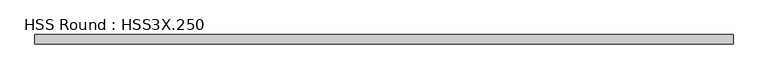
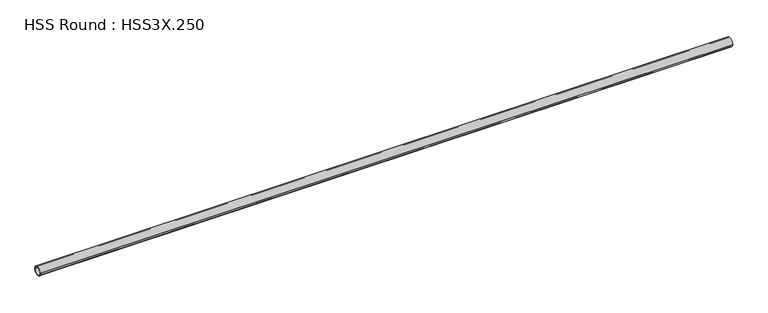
"""IFC4 building model written with IfcOpenShell, lengths in millimetres: member geometry, HSS Round : HSS3X.250."""

from ifc_helpers import new_model, si_unit, point, frame, origin, origin_2d, place, context, project, spatial, circle_curve, trimmed, segment, composite_curve, outline, extrude, source, transform, mapped, element, save


def hss_round_hss3x_250_f164ea78(model_context):
    return source(origin(), model_context, "Body", "SweptSolid", [
        extrude(outline(composite_curve([segment(trimmed(circle_curve(origin_2d(), 38.1), [point((-38.1, 0.0))], [point((38.1, 0.0))], False, "CARTESIAN"), True, "CONTINUOUS"), segment(trimmed(circle_curve(origin_2d(), 38.1), [point((38.1, 0.0))], [point((-38.1, 0.0))], False, "CARTESIAN"), True, "CONTINUOUS")], self_intersect=False), holes=[composite_curve([segment(trimmed(circle_curve(origin_2d(), 31.75), [point((31.75, 0.0))], [point((-31.75, 0.0))], True, "CARTESIAN"), True, "CONTINUOUS"), segment(trimmed(circle_curve(origin_2d(), 31.75), [point((-31.75, 0.0))], [point((31.75, 0.0))], True, "CARTESIAN"), True, "CONTINUOUS")], self_intersect=False)]), frame((-2872.2959474, 0.0, 0.0), z_axis=(1.0, 0.0, 0.0), x_axis=(0.0, 1.0, 0.0)), (0.0, 0.0, 1.0), 5744.5918948),
    ])


if __name__ == "__main__":
    model = new_model("IFC4")
    model_context = context("Model", 3, world=origin())
    ifc_project = project(units=[si_unit("LENGTHUNIT", "METRE", prefix="MILLI")], contexts=[model_context])
    site = spatial("IfcSite", under=ifc_project)
    building = spatial("IfcBuilding", under=site)
    placement = place(None, origin())
    hss_round_hss3x_250_shape = hss_round_hss3x_250_f164ea78(model_context)
    element("IfcMember", 1, ObjectType="HSS Round : HSS3X.250", at=placement, inside=building, context=model_context, shape_type="MappedRepresentation", body=[
        mapped(hss_round_hss3x_250_shape, transform((0.0, 0.0, 0.0), x_axis=(1.0, 0.0, 0.0), y_axis=(0.0, 1.0, 0.0), z_axis=(0.0, 0.0, 1.0))),
    ])
    save(model, "model.ifc")
